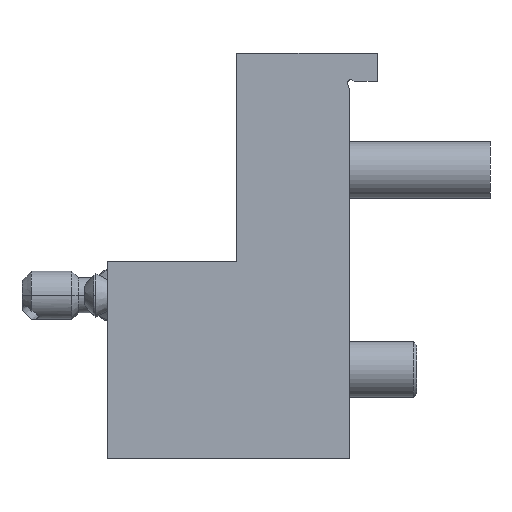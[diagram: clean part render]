
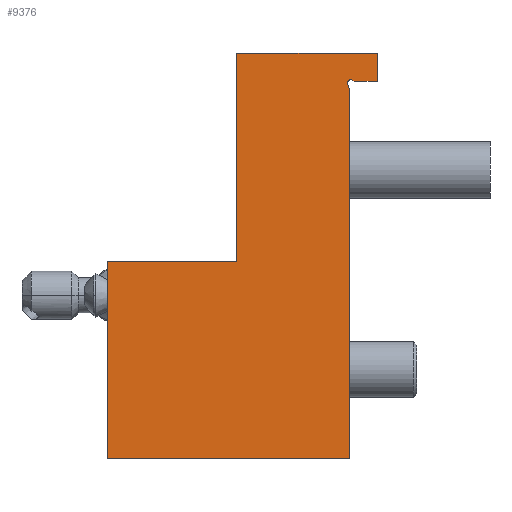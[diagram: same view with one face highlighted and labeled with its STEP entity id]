
A CAD part, left-side view. The second image highlights one B-rep face of the part: STEP entity #9376.
In plain terms, the highlighted planar face has unit normal (1, 0, 0).
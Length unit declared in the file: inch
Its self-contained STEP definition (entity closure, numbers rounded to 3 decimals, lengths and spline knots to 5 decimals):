
#7 = CARTESIAN_POINT ( 'NONE',  ( -2., -1.15, 3.35 ) ) ;
#32 = AXIS2_PLACEMENT_3D ( 'NONE', #9972, #476, #3712 ) ;
#464 = DIRECTION ( 'NONE',  ( 0., -0.819, -0.574 ) ) ;
#476 = DIRECTION ( 'NONE',  ( 1., 0., 0. ) ) ;
#554 = AXIS2_PLACEMENT_3D ( 'NONE', #9086, #8205, #1903 ) ;
#702 = EDGE_LOOP ( 'NONE', ( #8499, #9104, #5640, #5752, #9719, #10087, #8731, #10273, #1239, #4726, #2196, #5213 ) ) ;
#883 = VERTEX_POINT ( 'NONE', #8066 ) ;
#1037 = EDGE_CURVE ( 'NONE', #4247, #7904, #9159, .T. ) ;
#1128 = CARTESIAN_POINT ( 'NONE',  ( -2., -3.315, 3.365 ) ) ;
#1164 = VECTOR ( 'NONE', #1295, 39.37008 ) ;
#1187 = PLANE ( 'NONE',  #32 ) ;
#1239 = ORIENTED_EDGE ( 'NONE', *, *, #1273, .T. ) ;
#1273 = EDGE_CURVE ( 'NONE', #7904, #7260, #5826, .T. ) ;
#1295 = DIRECTION ( 'NONE',  ( 0., -1., 0. ) ) ;
#1326 = EDGE_CURVE ( 'NONE', #7250, #9994, #4817, .T. ) ;
#1348 = DIRECTION ( 'NONE',  ( 0., 0., 1. ) ) ;
#1793 = EDGE_CURVE ( 'NONE', #8603, #3046, #10328, .T. ) ;
#1821 = DIRECTION ( 'NONE',  ( 0., 1., 0. ) ) ;
#1903 = DIRECTION ( 'NONE',  ( 0., 0., 1. ) ) ;
#1904 = VECTOR ( 'NONE', #1348, 39.37008 ) ;
#1909 = DIRECTION ( 'NONE',  ( 0., 0.342, 0.94 ) ) ;
#1914 = CIRCLE ( 'NONE', #7103, 0.03 ) ;
#2100 = VECTOR ( 'NONE', #9741, 39.37008 ) ;
#2196 = ORIENTED_EDGE ( 'NONE', *, *, #10376, .T. ) ;
#2774 = DIRECTION ( 'NONE',  ( 0., 0., -1. ) ) ;
#2855 = LINE ( 'NONE', #9286, #6247 ) ;
#3046 = VERTEX_POINT ( 'NONE', #6973 ) ;
#3075 = CARTESIAN_POINT ( 'NONE',  ( -2., -3.33221, 3.35957 ) ) ;
#3104 = VECTOR ( 'NONE', #1821, 39.37008 ) ;
#3214 = CARTESIAN_POINT ( 'NONE',  ( -2., -3.315, 3.335 ) ) ;
#3246 = VECTOR ( 'NONE', #5344, 39.37008 ) ;
#3463 = LINE ( 'NONE', #9558, #3246 ) ;
#3712 = DIRECTION ( 'NONE',  ( 0., 0., -1. ) ) ;
#3899 = VECTOR ( 'NONE', #5167, 39.37008 ) ;
#4078 = VERTEX_POINT ( 'NONE', #8403 ) ;
#4247 = VERTEX_POINT ( 'NONE', #6201 ) ;
#4373 = EDGE_CURVE ( 'NONE', #9994, #4078, #8969, .T. ) ;
#4382 = LINE ( 'NONE', #4431, #3899 ) ;
#4431 = CARTESIAN_POINT ( 'NONE',  ( -2., -3.3, 3.6 ) ) ;
#4500 = LINE ( 'NONE', #6770, #1904 ) ;
#4510 = FACE_OUTER_BOUND ( 'NONE', #702, .T. ) ;
#4726 = ORIENTED_EDGE ( 'NONE', *, *, #7587, .F. ) ;
#4756 = VERTEX_POINT ( 'NONE', #5490 ) ;
#4817 = LINE ( 'NONE', #7996, #2100 ) ;
#4881 = VECTOR ( 'NONE', #464, 39.37008 ) ;
#5167 = DIRECTION ( 'NONE',  ( 0., 0., 1. ) ) ;
#5213 = ORIENTED_EDGE ( 'NONE', *, *, #1793, .T. ) ;
#5344 = DIRECTION ( 'NONE',  ( 0., -1., 0. ) ) ;
#5490 = CARTESIAN_POINT ( 'NONE',  ( -2., -2.3, 3.6 ) ) ;
#5640 = ORIENTED_EDGE ( 'NONE', *, *, #1326, .T. ) ;
#5684 = CARTESIAN_POINT ( 'NONE',  ( -2., -1.15, 0. ) ) ;
#5752 = ORIENTED_EDGE ( 'NONE', *, *, #4373, .T. ) ;
#5826 = LINE ( 'NONE', #7, #3104 ) ;
#6033 = CARTESIAN_POINT ( 'NONE',  ( -2., -3.55, 3.6 ) ) ;
#6061 = VERTEX_POINT ( 'NONE', #9956 ) ;
#6201 = CARTESIAN_POINT ( 'NONE',  ( -2., -3.55, 3.6 ) ) ;
#6247 = VECTOR ( 'NONE', #1909, 39.37008 ) ;
#6770 = CARTESIAN_POINT ( 'NONE',  ( -2., -2.3, 3.6 ) ) ;
#6797 = CARTESIAN_POINT ( 'NONE',  ( -2., -3.55, 3.35 ) ) ;
#6915 = CARTESIAN_POINT ( 'NONE',  ( -2., -3.34588, 3.35 ) ) ;
#6973 = CARTESIAN_POINT ( 'NONE',  ( -2., -3.28681, 3.32474 ) ) ;
#7055 = EDGE_CURVE ( 'NONE', #4078, #6061, #10297, .T. ) ;
#7103 = AXIS2_PLACEMENT_3D ( 'NONE', #3214, #8827, #7931 ) ;
#7250 = VERTEX_POINT ( 'NONE', #7328 ) ;
#7260 = VERTEX_POINT ( 'NONE', #9568 ) ;
#7328 = CARTESIAN_POINT ( 'NONE',  ( -2., -3.3, 0. ) ) ;
#7587 = EDGE_CURVE ( 'NONE', #9659, #7260, #8433, .T. ) ;
#7829 = VECTOR ( 'NONE', #8442, 39.37008 ) ;
#7865 = CARTESIAN_POINT ( 'NONE',  ( -2., -1.15, 1.75 ) ) ;
#7904 = VERTEX_POINT ( 'NONE', #6797 ) ;
#7931 = DIRECTION ( 'NONE',  ( 0., 0., 1. ) ) ;
#7996 = CARTESIAN_POINT ( 'NONE',  ( -2., -1.15, 0. ) ) ;
#8066 = CARTESIAN_POINT ( 'NONE',  ( -2., -3.3, 3.2885 ) ) ;
#8205 = DIRECTION ( 'NONE',  ( -1., 0., 0. ) ) ;
#8403 = CARTESIAN_POINT ( 'NONE',  ( -2., -1.15, 1.75 ) ) ;
#8433 = LINE ( 'NONE', #6915, #4881 ) ;
#8442 = DIRECTION ( 'NONE',  ( 0., 0., 1. ) ) ;
#8499 = ORIENTED_EDGE ( 'NONE', *, *, #8903, .F. ) ;
#8603 = VERTEX_POINT ( 'NONE', #1128 ) ;
#8731 = ORIENTED_EDGE ( 'NONE', *, *, #10403, .T. ) ;
#8827 = DIRECTION ( 'NONE',  ( -1., 0., 0. ) ) ;
#8859 = EDGE_CURVE ( 'NONE', #7250, #883, #4382, .T. ) ;
#8903 = EDGE_CURVE ( 'NONE', #883, #3046, #2855, .T. ) ;
#8969 = LINE ( 'NONE', #10071, #7829 ) ;
#9086 = CARTESIAN_POINT ( 'NONE',  ( -2., -3.315, 3.335 ) ) ;
#9104 = ORIENTED_EDGE ( 'NONE', *, *, #8859, .F. ) ;
#9159 = LINE ( 'NONE', #6033, #9970 ) ;
#9286 = CARTESIAN_POINT ( 'NONE',  ( -2., -3.3, 3.2885 ) ) ;
#9287 = EDGE_CURVE ( 'NONE', #6061, #4756, #4500, .T. ) ;
#9376 = ADVANCED_FACE ( 'NONE', ( #4510 ), #1187, .T. ) ;
#9558 = CARTESIAN_POINT ( 'NONE',  ( -2., -1.15, 3.6 ) ) ;
#9568 = CARTESIAN_POINT ( 'NONE',  ( -2., -3.34588, 3.35 ) ) ;
#9659 = VERTEX_POINT ( 'NONE', #3075 ) ;
#9719 = ORIENTED_EDGE ( 'NONE', *, *, #7055, .T. ) ;
#9741 = DIRECTION ( 'NONE',  ( 0., 1., 0. ) ) ;
#9956 = CARTESIAN_POINT ( 'NONE',  ( -2., -2.3, 1.75 ) ) ;
#9970 = VECTOR ( 'NONE', #2774, 39.37008 ) ;
#9972 = CARTESIAN_POINT ( 'NONE',  ( -2., -1.15, 3.6 ) ) ;
#9994 = VERTEX_POINT ( 'NONE', #5684 ) ;
#10071 = CARTESIAN_POINT ( 'NONE',  ( -2., -1.15, 3.6 ) ) ;
#10087 = ORIENTED_EDGE ( 'NONE', *, *, #9287, .T. ) ;
#10273 = ORIENTED_EDGE ( 'NONE', *, *, #1037, .T. ) ;
#10297 = LINE ( 'NONE', #7865, #1164 ) ;
#10328 = CIRCLE ( 'NONE', #554, 0.03 ) ;
#10376 = EDGE_CURVE ( 'NONE', #9659, #8603, #1914, .T. ) ;
#10403 = EDGE_CURVE ( 'NONE', #4756, #4247, #3463, .T. ) ;
